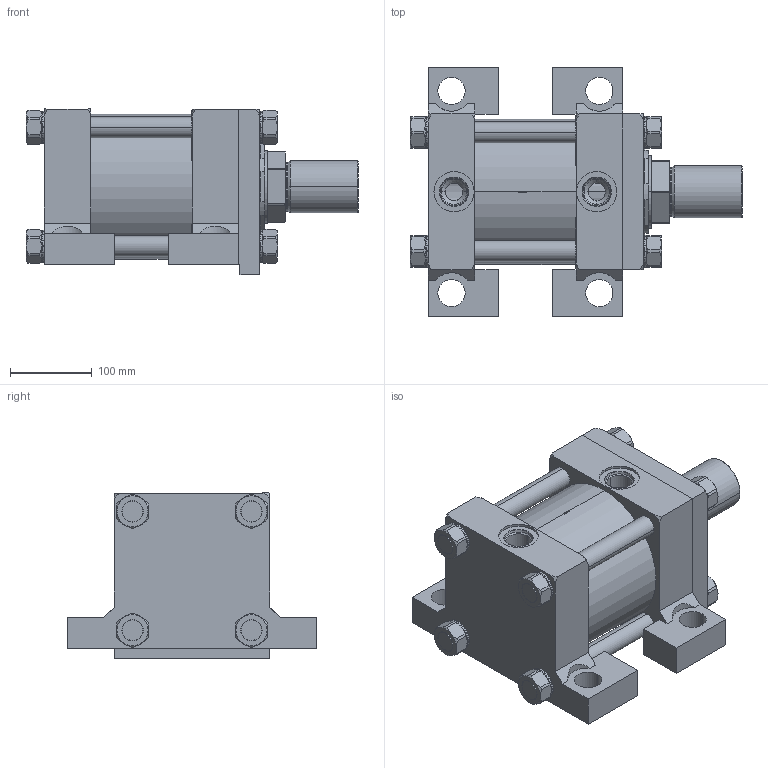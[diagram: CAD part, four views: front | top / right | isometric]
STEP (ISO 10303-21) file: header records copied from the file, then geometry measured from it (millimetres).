
FILE_DESCRIPTION (( 'STEP AP214' ), '1' );
FILE_NAME ('6.00CP2HHNAT144A2.000.step', '2026-03-26T21:15:35', ( '' ), ( '' ), 'SwSTEP 2.0', 'SolidWorks 2023', '' );
FILE_SCHEMA (( 'AUTOMOTIVE_DESIGN' ));
Length unit declared in the file: inch
Products named in the file (1): 6.00CP2HHNAT144A2.000
Bounding box: 406.4 x 304.8 x 203.2 mm (x, y, z)
Volume: 8794066.8 mm3; surface area: 972488.5 mm2
Topology: 44 solids, 44 shells, 1219 faces, 3145 edges, 2022 vertices
Faces by surface type: plane 795, cylinder 221, cone 161, bspline 34, torus 8
Entity records: 55136 total; most frequent: CARTESIAN_POINT 10949, ORIENTED_EDGE 6290, DIRECTION 5161, EDGE_CURVE 3145, VERTEX_POINT 2022, AXIS2_PLACEMENT_3D 1748, VECTOR 1665, LINE 1665
